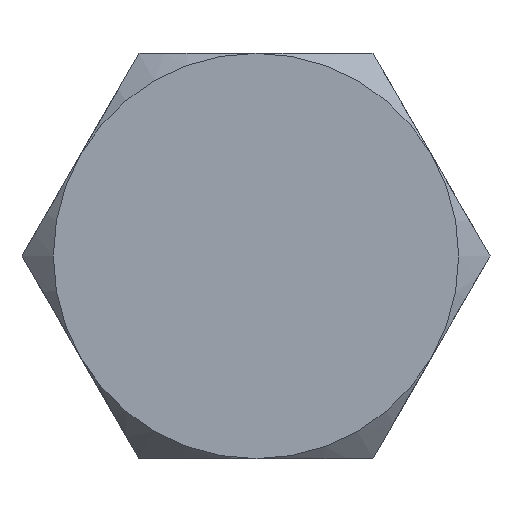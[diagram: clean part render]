
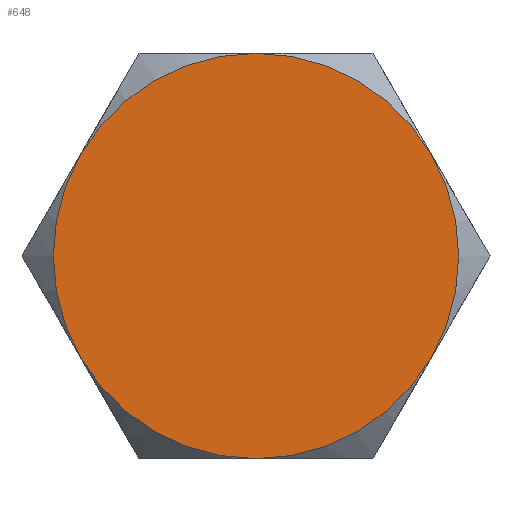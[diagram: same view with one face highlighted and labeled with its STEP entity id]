
A CAD part, front view. The second image highlights one B-rep face of the part: STEP entity #648.
In plain terms, the highlighted planar face has unit normal (0, -1, 0).
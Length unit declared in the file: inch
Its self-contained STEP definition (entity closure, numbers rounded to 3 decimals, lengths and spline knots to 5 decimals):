
#51=PLANE('',#744);
#137=FACE_OUTER_BOUND('',#181,.T.);
#181=EDGE_LOOP('',(#584,#585,#586,#587,#588,#589));
#219=CIRCLE('',#733,0.625);
#220=CIRCLE('',#735,0.625);
#221=CIRCLE('',#737,0.625);
#222=CIRCLE('',#739,0.625);
#223=CIRCLE('',#741,0.625);
#224=CIRCLE('',#743,0.625);
#283=VERTEX_POINT('',#1193);
#288=VERTEX_POINT('',#1213);
#291=VERTEX_POINT('',#1230);
#293=VERTEX_POINT('',#1248);
#296=VERTEX_POINT('',#1265);
#298=VERTEX_POINT('',#1281);
#390=EDGE_CURVE('',#283,#291,#219,.T.);
#391=EDGE_CURVE('',#298,#283,#220,.T.);
#392=EDGE_CURVE('',#296,#298,#221,.T.);
#393=EDGE_CURVE('',#293,#296,#222,.T.);
#394=EDGE_CURVE('',#288,#293,#223,.T.);
#395=EDGE_CURVE('',#291,#288,#224,.T.);
#584=ORIENTED_EDGE('',*,*,#394,.F.);
#585=ORIENTED_EDGE('',*,*,#395,.F.);
#586=ORIENTED_EDGE('',*,*,#390,.F.);
#587=ORIENTED_EDGE('',*,*,#391,.F.);
#588=ORIENTED_EDGE('',*,*,#392,.F.);
#589=ORIENTED_EDGE('',*,*,#393,.F.);
#648=ADVANCED_FACE('',(#137),#51,.T.);
#733=AXIS2_PLACEMENT_3D('',#1295,#905,#906);
#735=AXIS2_PLACEMENT_3D('',#1297,#909,#910);
#737=AXIS2_PLACEMENT_3D('',#1299,#913,#914);
#739=AXIS2_PLACEMENT_3D('',#1301,#917,#918);
#741=AXIS2_PLACEMENT_3D('',#1303,#921,#922);
#743=AXIS2_PLACEMENT_3D('',#1305,#925,#926);
#744=AXIS2_PLACEMENT_3D('',#1306,#927,#928);
#905=DIRECTION('center_axis',(0.,1.,0.));
#906=DIRECTION('ref_axis',(0.,0.,1.));
#909=DIRECTION('center_axis',(0.,1.,0.));
#910=DIRECTION('ref_axis',(0.,0.,1.));
#913=DIRECTION('center_axis',(0.,1.,0.));
#914=DIRECTION('ref_axis',(0.,0.,1.));
#917=DIRECTION('center_axis',(0.,1.,0.));
#918=DIRECTION('ref_axis',(0.,0.,1.));
#921=DIRECTION('center_axis',(0.,1.,0.));
#922=DIRECTION('ref_axis',(0.,0.,1.));
#925=DIRECTION('center_axis',(0.,1.,0.));
#926=DIRECTION('ref_axis',(0.,0.,1.));
#927=DIRECTION('center_axis',(0.,-1.,0.));
#928=DIRECTION('ref_axis',(0.,0.,-1.));
#1193=CARTESIAN_POINT('',(0.54127,0.,0.3125));
#1213=CARTESIAN_POINT('',(0.,0.,-0.625));
#1230=CARTESIAN_POINT('',(0.54127,0.,-0.3125));
#1248=CARTESIAN_POINT('',(-0.54127,0.,-0.3125));
#1265=CARTESIAN_POINT('',(-0.54127,0.,0.3125));
#1281=CARTESIAN_POINT('',(0.,0.,0.625));
#1295=CARTESIAN_POINT('Origin',(0.,0.,0.));
#1297=CARTESIAN_POINT('Origin',(0.,0.,0.));
#1299=CARTESIAN_POINT('Origin',(0.,0.,0.));
#1301=CARTESIAN_POINT('Origin',(0.,0.,0.));
#1303=CARTESIAN_POINT('Origin',(0.,0.,0.));
#1305=CARTESIAN_POINT('Origin',(0.,0.,0.));
#1306=CARTESIAN_POINT('Origin',(0.,0.,0.));
